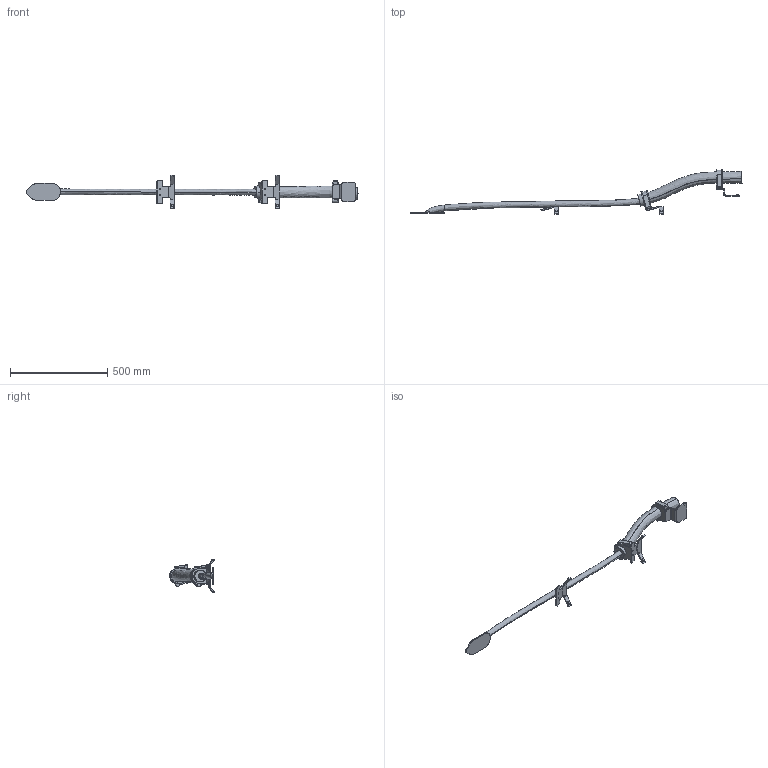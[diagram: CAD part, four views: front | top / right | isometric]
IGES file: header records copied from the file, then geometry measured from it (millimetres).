
Start section: SolidWorks IGES file using analytic representation for surfaces
Global section: file name: N:\DM\Robotics\SEROP_PROJ\Product Development\DevelopmentProjects\Manipulator_Modularity\04. Product Design\06. CAD\Amanda\6730S Simulation models\\IRB6730S-MH3_150kg-400_OC_01_IGES_J\IRB6730S-MH3_150kg-400-OC_00_LINK04_CABLE.igs; native system: SolidWorks 2024; preprocessor: SolidWorks 2024; author: SEJOHLUN; date: 251219.145006; units: millimetre
Bounding box: 1706.5 x 230.26 x 174.65 mm (x, y, z)
Surface area: 348077.7 mm2 (no closed solid volume)
Topology: 0 solids, 0 shells, 343 faces, 4455 edges, 4455 vertices
Faces by surface type: bspline 235, revolution 108
